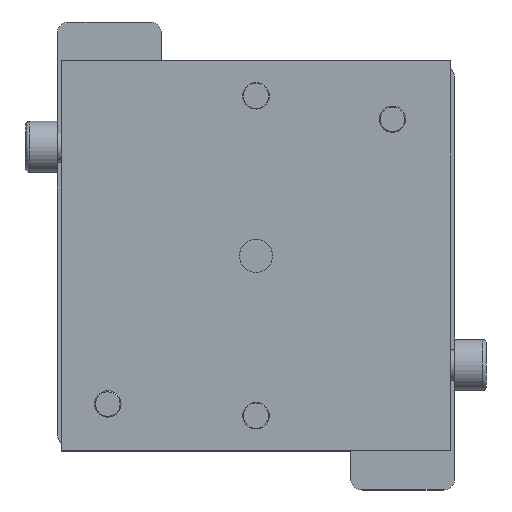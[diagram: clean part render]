
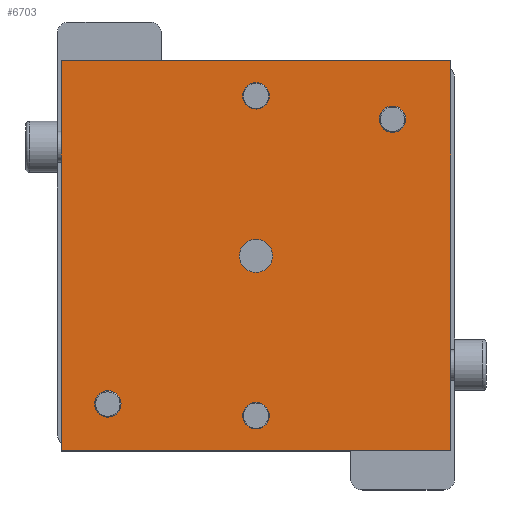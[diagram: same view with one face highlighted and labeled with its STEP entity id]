
A CAD part, top view. The second image highlights one B-rep face of the part: STEP entity #6703.
In plain terms, the highlighted planar face has unit normal (0, 0, 1).
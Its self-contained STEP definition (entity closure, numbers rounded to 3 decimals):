
#251=FACE_BOUND('',#2228,.T.);
#252=FACE_BOUND('',#2229,.T.);
#253=FACE_BOUND('',#2230,.T.);
#254=FACE_BOUND('',#2231,.T.);
#255=FACE_BOUND('',#2232,.T.);
#373=PLANE('',#7541);
#788=LINE('',#11415,#1206);
#790=LINE('',#11419,#1208);
#792=LINE('',#11423,#1210);
#794=LINE('',#11426,#1212);
#1206=VECTOR('',#9211,10.);
#1208=VECTOR('',#9215,10.);
#1210=VECTOR('',#9219,10.);
#1212=VECTOR('',#9223,10.);
#1753=FACE_OUTER_BOUND('',#2227,.T.);
#2227=EDGE_LOOP('',(#5546,#5547,#5548,#5549));
#2228=EDGE_LOOP('',(#5550));
#2229=EDGE_LOOP('',(#5551));
#2230=EDGE_LOOP('',(#5552));
#2231=EDGE_LOOP('',(#5553));
#2232=EDGE_LOOP('',(#5554));
#2685=CIRCLE('',#7386,3.39);
#2687=CIRCLE('',#7389,3.39);
#2709=CIRCLE('',#7432,3.39);
#2711=CIRCLE('',#7435,3.39);
#2768=CIRCLE('',#7542,4.263);
#3205=VERTEX_POINT('',#11025);
#3207=VERTEX_POINT('',#11031);
#3235=VERTEX_POINT('',#11128);
#3237=VERTEX_POINT('',#11134);
#3304=VERTEX_POINT('',#11412);
#3305=VERTEX_POINT('',#11414);
#3306=VERTEX_POINT('',#11418);
#3307=VERTEX_POINT('',#11422);
#3308=VERTEX_POINT('',#11428);
#3937=EDGE_CURVE('',#3205,#3205,#2685,.T.);
#3940=EDGE_CURVE('',#3207,#3207,#2687,.T.);
#3988=EDGE_CURVE('',#3235,#3235,#2709,.T.);
#3991=EDGE_CURVE('',#3237,#3237,#2711,.T.);
#4102=EDGE_CURVE('',#3305,#3304,#788,.T.);
#4104=EDGE_CURVE('',#3306,#3305,#790,.T.);
#4106=EDGE_CURVE('',#3307,#3306,#792,.T.);
#4108=EDGE_CURVE('',#3304,#3307,#794,.T.);
#4109=EDGE_CURVE('',#3308,#3308,#2768,.T.);
#5546=ORIENTED_EDGE('',*,*,#4108,.T.);
#5547=ORIENTED_EDGE('',*,*,#4106,.T.);
#5548=ORIENTED_EDGE('',*,*,#4104,.T.);
#5549=ORIENTED_EDGE('',*,*,#4102,.T.);
#5550=ORIENTED_EDGE('',*,*,#4109,.T.);
#5551=ORIENTED_EDGE('',*,*,#3937,.T.);
#5552=ORIENTED_EDGE('',*,*,#3940,.T.);
#5553=ORIENTED_EDGE('',*,*,#3988,.T.);
#5554=ORIENTED_EDGE('',*,*,#3991,.T.);
#6703=ADVANCED_FACE('',(#1753,#251,#252,#253,#254,#255),#373,.T.);
#7386=AXIS2_PLACEMENT_3D('',#11027,#8843,#8844);
#7389=AXIS2_PLACEMENT_3D('',#11033,#8850,#8851);
#7432=AXIS2_PLACEMENT_3D('',#11130,#8962,#8963);
#7435=AXIS2_PLACEMENT_3D('',#11136,#8969,#8970);
#7541=AXIS2_PLACEMENT_3D('',#11427,#9224,#9225);
#7542=AXIS2_PLACEMENT_3D('',#11429,#9226,#9227);
#8843=DIRECTION('center_axis',(0.,0.,-1.));
#8844=DIRECTION('ref_axis',(-1.,0.,0.));
#8850=DIRECTION('center_axis',(0.,0.,-1.));
#8851=DIRECTION('ref_axis',(-1.,0.,0.));
#8962=DIRECTION('center_axis',(0.,0.,-1.));
#8963=DIRECTION('ref_axis',(-1.,0.,0.));
#8969=DIRECTION('center_axis',(0.,0.,-1.));
#8970=DIRECTION('ref_axis',(-1.,0.,0.));
#9211=DIRECTION('',(0.,1.,0.));
#9215=DIRECTION('',(1.,0.,0.));
#9219=DIRECTION('',(0.,-1.,0.));
#9223=DIRECTION('',(-1.,0.,0.));
#9224=DIRECTION('center_axis',(0.,0.,1.));
#9225=DIRECTION('ref_axis',(1.,0.,0.));
#9226=DIRECTION('center_axis',(0.,0.,-1.));
#9227=DIRECTION('ref_axis',(-1.,0.,0.));
#11025=CARTESIAN_POINT('',(-34.61,-38.,33.5));
#11027=CARTESIAN_POINT('Origin',(-38.,-38.,33.5));
#11031=CARTESIAN_POINT('',(38.39,35.,33.5));
#11033=CARTESIAN_POINT('Origin',(35.,35.,33.5));
#11128=CARTESIAN_POINT('',(3.39,-41.,33.5));
#11130=CARTESIAN_POINT('Origin',(0.,-41.,33.5));
#11134=CARTESIAN_POINT('',(3.39,41.,33.5));
#11136=CARTESIAN_POINT('Origin',(0.,41.,33.5));
#11412=CARTESIAN_POINT('',(50.,50.,33.5));
#11414=CARTESIAN_POINT('',(50.,-50.,33.5));
#11415=CARTESIAN_POINT('',(50.,-50.,33.5));
#11418=CARTESIAN_POINT('',(-50.,-50.,33.5));
#11419=CARTESIAN_POINT('',(-50.,-50.,33.5));
#11422=CARTESIAN_POINT('',(-50.,50.,33.5));
#11423=CARTESIAN_POINT('',(-50.,50.,33.5));
#11426=CARTESIAN_POINT('',(50.,50.,33.5));
#11427=CARTESIAN_POINT('Origin',(0.,0.,33.5));
#11428=CARTESIAN_POINT('',(4.263,0.,33.5));
#11429=CARTESIAN_POINT('Origin',(0.,0.,33.5));
